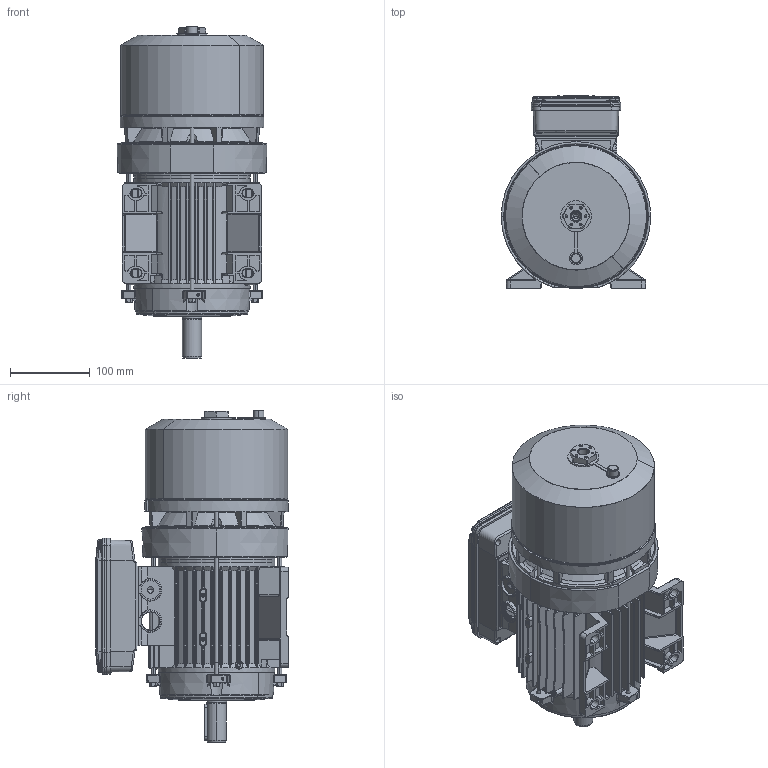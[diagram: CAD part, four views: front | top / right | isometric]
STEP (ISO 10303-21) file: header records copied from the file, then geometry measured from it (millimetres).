
FILE_DESCRIPTION (( 'STEP AP214' ), '1' );
FILE_NAME ('M02EA0012.STEP', '2019-05-23T06:58:51', ( '' ), ( '' ), 'SwSTEP 2.0', 'SolidWorks 2018', '' );
FILE_SCHEMA (( 'AUTOMOTIVE_DESIGN' ));
Length unit declared in the file: millimetre
Products named in the file (18): Dado M5; Vite a Testa Esagona con foro e tappo 71-112 - Modificata; Tirante BA 90S - DBA60094; Scudo Lato Comando B3 BA-BM 90 - DDAD0094; Chiavetta 90; Albero BA 90 S; Cuffia serie BA 90; Convogliatore con pista d''attrito P2 BA 90 - DDAF0195; Scudo Lato Freno BA90 P1 - DDAE0094; Carcassa 90 S B3; O-ring freno BA 90; M02EA0012; Scatola per Morsettiera Doppia 90-100-112 - Completa; Guarnizione Coperchio Semplice Scatola BA 90 100 112 - DDAL0094; Guarnizione Doppia Scatola Gr. 90 100 112 - DDAM0094; Vite  a testa bombata M4x16; Coperchio per Scatola per Morsettiera Doppia 90-100-112; Scatola per Morsettiera Doppia 90-100-112
Assembly tree (26 placements, depth 3):
  M02EA0012
    Carcassa 90 S B3
    Scudo Lato Freno BA90 P1 - DDAE0094
    Convogliatore con pista d''attrito P2 BA 90 - DDAF0195
    Cuffia serie BA 90
    Albero BA 90 S
    Chiavetta 90
    Scudo Lato Comando B3 BA-BM 90 - DDAD0094
    Tirante BA 90S - DBA60094  x4
    Vite a Testa Esagona con foro e tappo 71-112 - Modificata
    Dado M5  x4
    Scatola per Morsettiera Doppia 90-100-112 - Completa
      Scatola per Morsettiera Doppia 90-100-112
      Coperchio per Scatola per Morsettiera Doppia 90-100-112
      Vite  a testa bombata M4x16  x4
      Guarnizione Doppia Scatola Gr. 90 100 112 - DDAM0094
      Guarnizione Coperchio Semplice Scatola BA 90 100 112 - DDAL0094
    O-ring freno BA 90
Bounding box: 187 x 241.3 x 415.18 mm (x, y, z)
Volume: 1664588.9 mm3; surface area: 990108.9 mm2
Topology: 29 solids, 29 shells, 4254 faces, 11368 edges, 7197 vertices
Faces by surface type: plane 1419, cylinder 1412, torus 501, bspline 457, cone 451, sphere 14
Entity records: 149870 total; most frequent: CARTESIAN_POINT 55091, ORIENTED_EDGE 21128, DIRECTION 17682, EDGE_CURVE 10564, VERTEX_POINT 6741, AXIS2_PLACEMENT_3D 6738, VECTOR 4206, LINE 4206
